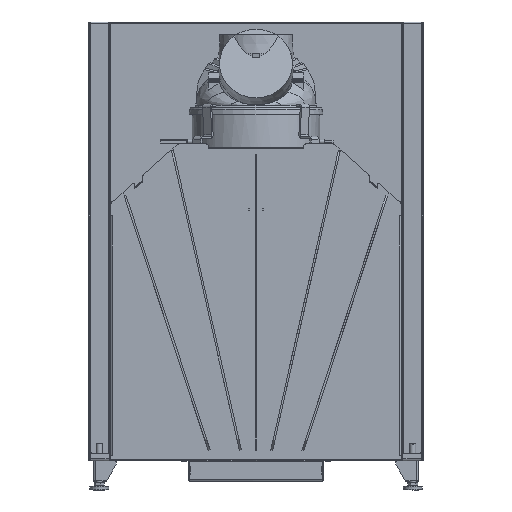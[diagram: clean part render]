
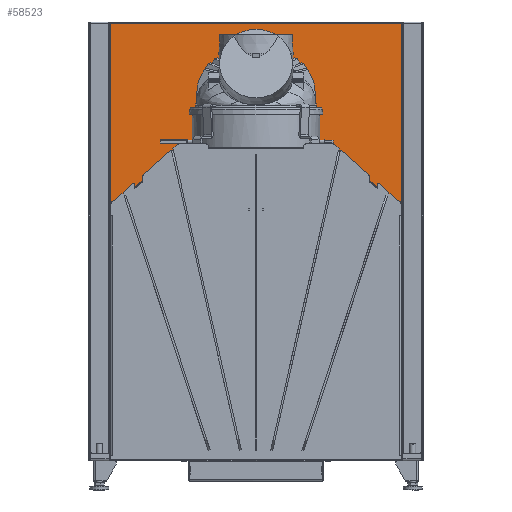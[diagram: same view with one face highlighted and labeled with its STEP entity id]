
A CAD part, front view. The second image highlights one B-rep face of the part: STEP entity #58523.
In plain terms, the highlighted planar face has unit normal (0, -1, 0).
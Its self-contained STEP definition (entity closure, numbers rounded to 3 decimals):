
#4917=FACE_OUTER_BOUND('',#8122,.T.);
#8122=EDGE_LOOP('',(#39572,#39573,#39574,#39575,#39576,#39577,#39578,#39579,
#39580,#39581));
#11817=LINE('',#85249,#17626);
#11967=LINE('',#85667,#17776);
#11969=LINE('',#85670,#17778);
#11970=LINE('',#85676,#17779);
#12037=LINE('',#85881,#17846);
#12039=LINE('',#85887,#17848);
#12046=LINE('',#85942,#17855);
#12052=LINE('',#85983,#17861);
#12067=LINE('',#86043,#17876);
#12070=LINE('',#86050,#17879);
#17626=VECTOR('',#68901,70.1);
#17776=VECTOR('',#69253,0.05);
#17778=VECTOR('',#69257,0.05);
#17779=VECTOR('',#69264,3.675);
#17846=VECTOR('',#69475,47.46);
#17848=VECTOR('',#69481,0.15);
#17855=VECTOR('',#69494,77.25);
#17861=VECTOR('',#69504,0.15);
#17876=VECTOR('',#69561,47.46);
#17879=VECTOR('',#69570,3.675);
#23221=VERTEX_POINT('',#85227);
#23228=VERTEX_POINT('',#85246);
#23229=VERTEX_POINT('',#85248);
#23248=VERTEX_POINT('',#85299);
#23398=VERTEX_POINT('',#85674);
#23422=VERTEX_POINT('',#85833);
#23423=VERTEX_POINT('',#85856);
#23425=VERTEX_POINT('',#85875);
#23427=VERTEX_POINT('',#85886);
#23431=VERTEX_POINT('',#85941);
#29090=EDGE_CURVE('',#23229,#23228,#11817,.T.);
#29300=EDGE_CURVE('',#23221,#23229,#11967,.T.);
#29302=EDGE_CURVE('',#23228,#23248,#11969,.T.);
#29305=EDGE_CURVE('',#23248,#23398,#11970,.T.);
#29394=EDGE_CURVE('',#23398,#23425,#12037,.T.);
#29397=EDGE_CURVE('',#23423,#23427,#12039,.T.);
#29407=EDGE_CURVE('',#23427,#23431,#12046,.T.);
#29415=EDGE_CURVE('',#23431,#23425,#12052,.T.);
#29436=EDGE_CURVE('',#23423,#23422,#12067,.T.);
#29439=EDGE_CURVE('',#23422,#23221,#12070,.T.);
#39572=ORIENTED_EDGE('',*,*,#29394,.T.);
#39573=ORIENTED_EDGE('',*,*,#29415,.F.);
#39574=ORIENTED_EDGE('',*,*,#29407,.F.);
#39575=ORIENTED_EDGE('',*,*,#29397,.F.);
#39576=ORIENTED_EDGE('',*,*,#29436,.T.);
#39577=ORIENTED_EDGE('',*,*,#29439,.T.);
#39578=ORIENTED_EDGE('',*,*,#29300,.T.);
#39579=ORIENTED_EDGE('',*,*,#29090,.T.);
#39580=ORIENTED_EDGE('',*,*,#29302,.T.);
#39581=ORIENTED_EDGE('',*,*,#29305,.T.);
#54104=PLANE('',#62068);
#58523=ADVANCED_FACE('',(#4917),#54104,.T.);
#62068=AXIS2_PLACEMENT_3D('',#86052,#69573,#69574);
#68901=DIRECTION('',(1.,0.,0.));
#69253=DIRECTION('',(1.,0.,0.));
#69257=DIRECTION('',(1.,0.,0.));
#69264=DIRECTION('',(1.,0.,0.));
#69475=DIRECTION('',(0.,0.,1.));
#69481=DIRECTION('',(1.,0.,0.));
#69494=DIRECTION('',(1.,0.,0.));
#69504=DIRECTION('',(1.,0.,0.));
#69561=DIRECTION('',(0.,0.,-1.));
#69570=DIRECTION('',(1.,0.,0.));
#69573=DIRECTION('center_axis',(0.,-1.,0.));
#69574=DIRECTION('ref_axis',(0.,0.,
-1.));
#85227=CARTESIAN_POINT('',(-35.1,-1.,69.115));
#85246=CARTESIAN_POINT('',(35.05,-1.,69.115));
#85248=CARTESIAN_POINT('',(-35.05,-1.,69.115));
#85249=CARTESIAN_POINT('',(0.,-1.,69.115));
#85299=CARTESIAN_POINT('',(35.1,-1.,69.115));
#85667=CARTESIAN_POINT('',(0.,-1.,69.115));
#85670=CARTESIAN_POINT('',(0.,-1.,69.115));
#85674=CARTESIAN_POINT('',(38.775,-1.,69.115));
#85676=CARTESIAN_POINT('',(0.,-1.,69.115));
#85833=CARTESIAN_POINT('',(-38.775,-1.,69.115));
#85856=CARTESIAN_POINT('',(-38.775,-1.,116.575));
#85875=CARTESIAN_POINT('',(38.775,-1.,116.575));
#85881=CARTESIAN_POINT('',(38.775,-1.,105.07));
#85886=CARTESIAN_POINT('',(-38.625,-1.,116.575));
#85887=CARTESIAN_POINT('',(0.,-1.,116.575));
#85941=CARTESIAN_POINT('',(38.625,-1.,116.575));
#85942=CARTESIAN_POINT('',(0.,-1.,116.575));
#85983=CARTESIAN_POINT('',(0.,-1.,116.575));
#86043=CARTESIAN_POINT('',(-38.775,-1.,81.341));
#86050=CARTESIAN_POINT('',(0.,-1.,69.115));
#86052=CARTESIAN_POINT('Origin',(0.,-1.,
93.566));
